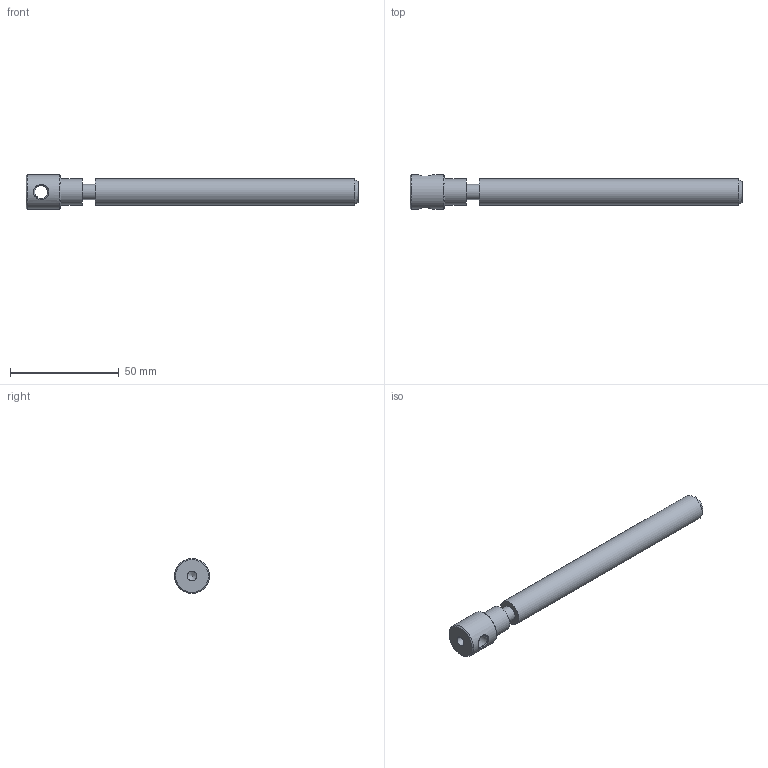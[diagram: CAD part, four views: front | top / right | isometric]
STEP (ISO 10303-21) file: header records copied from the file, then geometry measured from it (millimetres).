
FILE_DESCRIPTION(/* description */ (''),/* implementation_level */ '2;1');
FILE_NAME(/* name */ 'H:\5-Olympiades\47e\Sujet Régional\Etau\A donner aux candidats\2-Après-Midi\Fichiers STEP\03-Vis de blocage Mors.stp',/* time_stamp */ '2022-03-30T10:08:04+02:00',/* author */ ('Philippe'),/* organization */ (''),/* preprocessor_version */ 'ST-DEVELOPER v18',/* originating_system */ 'Autodesk Inventor 2020',/* authorisation */ '');
FILE_SCHEMA (('CONFIG_CONTROL_DESIGN'));
Length unit declared in the file: millimetre
Products named in the file (1): 03-Vis de blocage Mors
Bounding box: 153 x 16 x 16 mm (x, y, z)
Volume: 17124.3 mm3; surface area: 9541.2 mm2
Topology: 1 solids, 3 shells, 23 faces, 65 edges, 47 vertices
Faces by surface type: cylinder 10, cone 6, plane 5, bspline 2
Full cylindrical faces by diameter (mm): 4.5 x2, 4.917 x1, 6 x1, 7 x1, 12 x2, 16 x1
Entity records: 1195 total; most frequent: CARTESIAN_POINT 509, DIRECTION 130, ORIENTED_EDGE 118, EDGE_CURVE 63, AXIS2_PLACEMENT_3D 54, VERTEX_POINT 47, CIRCLE 32, EDGE_LOOP 30
